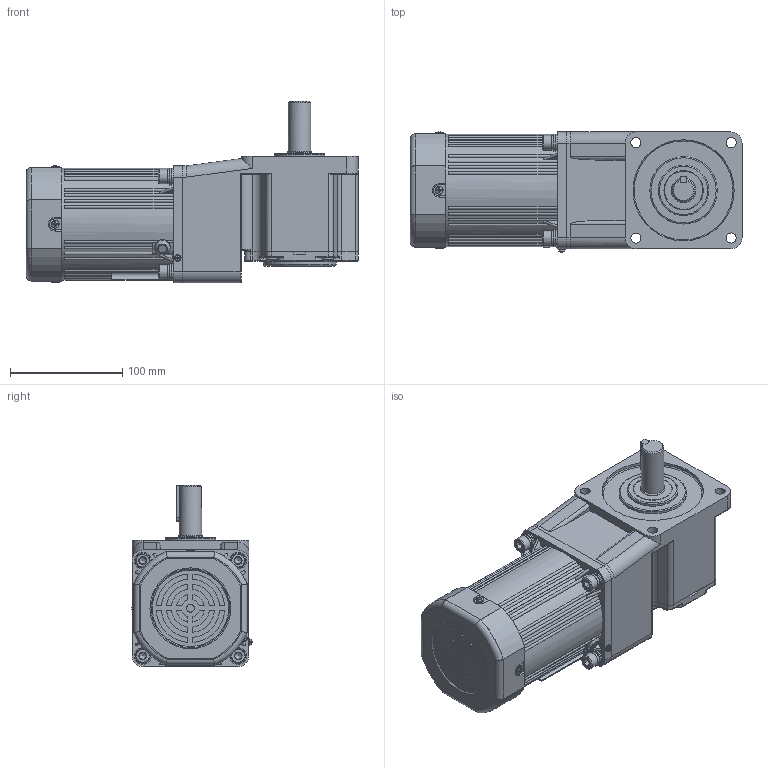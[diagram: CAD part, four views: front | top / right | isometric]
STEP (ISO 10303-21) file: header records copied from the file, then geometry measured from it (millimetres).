
FILE_DESCRIPTION(/* description */ (''),/* implementation_level */ '2;1');
FILE_NAME(/* name */ '100+直角中实-风叶-120-140W 新版.stp',/* time_stamp */ '2025-03-25T15:00:20+08:00',/* author */ (''),/* organization */ (''),/* preprocessor_version */ 'ST-DEVELOPER v18.102',/* originating_system */ 'SIEMENS PLM Software NX 2027',/* authorisation */ '');
FILE_SCHEMA (('AP203_CONFIGURATION_CONTROLLED_3D_DESIGN_OF_MECHANICAL_PARTS_AND_ASSEMBLIES_MIM_LF { 1 0 10303 403 2 1 2}'));
Length unit declared in the file: millimetre
Products named in the file (1): 6RK120-140CC·F_6GU3-750K-C·15L_stp_M066166857A1nl
fx
Bounding box: 295.5 x 106.83 x 161.53 mm (x, y, z)
Volume: 2858748.6 mm3; surface area: 371170.1 mm2
Topology: 25 solids, 25 shells, 1784 faces, 4617 edges, 2988 vertices
Faces by surface type: plane 753, cylinder 560, bspline 215, cone 118, torus 114, sphere 24
Full cylindrical faces by diameter (mm): 2.6 x2, 2.7 x1, 3 x17, 3.2 x2, 3.5 x4, 3.6 x4, 4 x4, 4.55 x2, 5.1 x2, 5.15 x2, 6 x10, 6.8 x12, 7 x2, 7.5 x2, 7.76 x4, 8.4 x4, 9 x13, 9.3 x1, 9.5 x4, 13 x4, 14 x8, 15 x5, 15.5 x2, 19 x2, 20 x1, 21 x1, 22 x1, 28 x1, 30 x3, 35 x2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
Entity records: 54399 total; most frequent: CARTESIAN_POINT 13417, ORIENTED_EDGE 8318, DIRECTION 8065, EDGE_CURVE 4159, AXIS2_PLACEMENT_3D 3207, VERTEX_POINT 2831, EDGE_LOOP 2253, ADVANCED_FACE 1783
